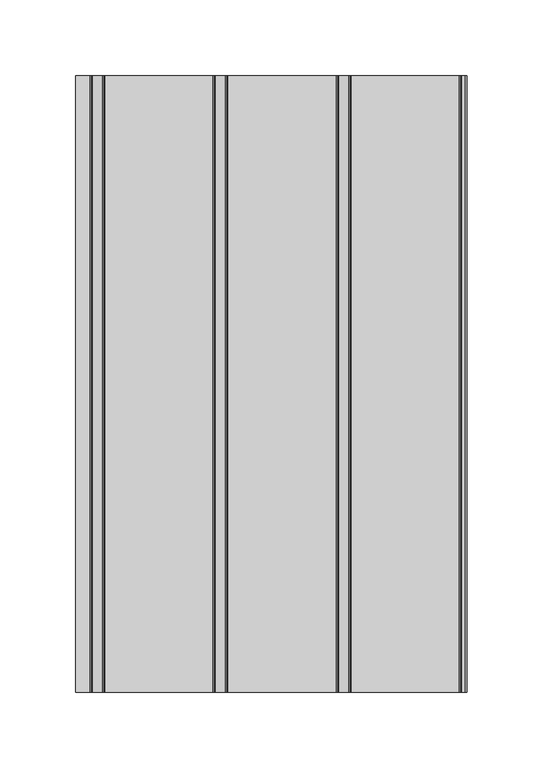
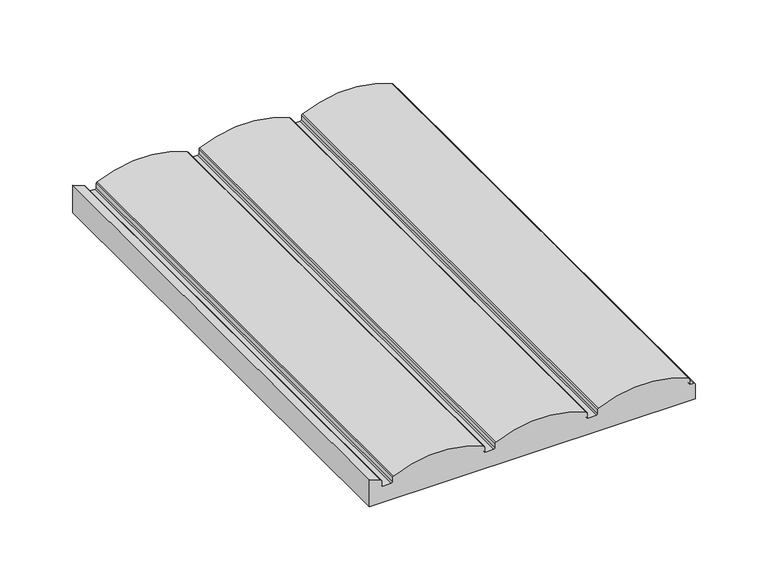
"""IFC4 building model written with IfcOpenShell, lengths in millimetres: proxy geometry, Spinneybeck_Porto 1 : Porto 1."""

import ifcopenshell
import ifcopenshell.guid

model = None  # the IFC model being written
_history = None  # IfcOwnerHistory: only IFC2X3 demands one
_inside = {}  # id of a spatial element -> (the spatial element, [elements in it])
_under = {}  # id of a project, library or spatial element -> (it, [spatial elements below it])
_declared = {}  # id of a project -> (the project, [libraries it declares])
_typed = {}  # id of a type object -> (the type object, [elements of that type])
_made_of = {}  # id of a material, layer set ... -> (it, [elements and type objects made of it])


def new_model(schema):
    """Start an empty IFC model of exactly this schema.

    Asked for "IFC4X3", IfcOpenShell would pick the latest addendum, in which some entities
    have other attributes; the version numbers below select the first issue.
    IFC2X3 requires an IfcOwnerHistory on every rooted entity: one is made here for all.
    """
    global model, _history
    if schema == "IFC4X3":
        model = ifcopenshell.file(schema_version=(4, 3, 0, 0))
    else:
        model = ifcopenshell.file(schema=schema)
    _inside.clear()
    _under.clear()
    _declared.clear()
    _typed.clear()
    _made_of.clear()
    _history = None
    if model.schema == "IFC2X3":
        org = make("IfcOrganization", Name="unknown")
        user = make(
            "IfcPersonAndOrganization",
            ThePerson=make("IfcPerson", FamilyName="unknown"),
            TheOrganization=org,
        )
        app = make(
            "IfcApplication",
            ApplicationDeveloper=org,
            Version="unknown",
            ApplicationFullName="unknown",
            ApplicationIdentifier="unknown",
        )
        _history = make(
            "IfcOwnerHistory",
            OwningUser=user,
            OwningApplication=app,
            ChangeAction="ADDED",
            CreationDate=0,
        )
    return model


def make(cls, **values):
    """One entity of the class cls with the attributes given. An attribute that is None is left unset."""
    return model.create_entity(
        cls, **{name: value for name, value in values.items() if value is not None}
    )


def rooted(cls, **values):
    """An entity with a GlobalId (a new one), such as an element, a storey or a relation."""
    return make(cls, GlobalId=ifcopenshell.guid.new(), OwnerHistory=_history, **values)


def si_unit(unit_type, name, prefix=None):
    """IfcSIUnit, for example si_unit("LENGTHUNIT", "METRE", prefix="MILLI")."""
    return make("IfcSIUnit", UnitType=unit_type, Prefix=prefix, Name=name)


def assignment(units):
    """IfcUnitAssignment: the units of a project."""
    return None if units is None else make("IfcUnitAssignment", Units=units)


def point(xyz):
    """IfcCartesianPoint."""
    return None if xyz is None else make("IfcCartesianPoint", Coordinates=xyz)


def direction(xyz):
    """IfcDirection."""
    return None if xyz is None else make("IfcDirection", DirectionRatios=xyz)


def frame(location, z_axis=None, x_axis=None):
    """IfcAxis2Placement3D, a coordinate frame: its origin and axes. An axis left out is left unset."""
    return make(
        "IfcAxis2Placement3D",
        Location=point(location),
        Axis=direction(z_axis),
        RefDirection=direction(x_axis),
    )


def frame_2d(location, x_axis=None):
    """IfcAxis2Placement2D, a coordinate frame in the plane: its origin and x axis."""
    return make(
        "IfcAxis2Placement2D", Location=point(location), RefDirection=direction(x_axis)
    )


def origin():
    """The frame at (0, 0, 0) with its axes left unset."""
    return frame((0.0, 0.0, 0.0))


def place(relative_to, where):
    """IfcLocalPlacement: puts the frame where relative to a parent placement (None: the world)."""
    return make(
        "IfcLocalPlacement", PlacementRelTo=relative_to, RelativePlacement=where
    )


def context(
    kind, dimensions, precision=None, world=None, true_north=None, identifier=None
):
    """IfcGeometricRepresentationContext, for example the 3D "Model" context."""
    return make(
        "IfcGeometricRepresentationContext",
        ContextIdentifier=identifier,
        ContextType=kind,
        CoordinateSpaceDimension=dimensions,
        Precision=precision,
        WorldCoordinateSystem=world,
        TrueNorth=true_north,
    )


def project(units=None, contexts=None):
    """IfcProject with its units and contexts."""
    return rooted(
        "IfcProject",
        Name="project",
        RepresentationContexts=contexts,
        UnitsInContext=assignment(units),
    )


def spatial(cls, under=None, at=None, **own):
    """A site, building, storey or space (cls), placed at a placement, below another one or the project."""
    s = rooted(cls, ObjectPlacement=at, **own)
    if under is not None:
        _under.setdefault(under.id(), (under, []))[1].append(s)
    return s


def polyline(points):
    """IfcPolyline through the points."""
    return make("IfcPolyline", Points=[point(p) for p in points])


def circle_curve(where, radius):
    """IfcCircle in the frame where."""
    return make("IfcCircle", Position=where, Radius=radius)


def trimmed(basis, trim1, trim2, sense, master):
    """IfcTrimmedCurve: the piece of a basis curve between two trims."""
    return make(
        "IfcTrimmedCurve",
        BasisCurve=basis,
        Trim1=trim1,
        Trim2=trim2,
        SenseAgreement=sense,
        MasterRepresentation=master,
    )


def segment(curve, same_sense, transition):
    """IfcCompositeCurveSegment."""
    return make(
        "IfcCompositeCurveSegment",
        Transition=transition,
        SameSense=same_sense,
        ParentCurve=curve,
    )


def composite_curve(segments, self_intersect=None):
    """IfcCompositeCurve: segments joined end to end."""
    return make("IfcCompositeCurve", Segments=segments, SelfIntersect=self_intersect)


def outline(outer, holes=None, kind="AREA"):
    """IfcArbitraryClosedProfileDef: a profile drawn as a closed curve; with holes, ...WithVoids."""
    if holes is None:
        return make("IfcArbitraryClosedProfileDef", ProfileType=kind, OuterCurve=outer)
    return make(
        "IfcArbitraryProfileDefWithVoids",
        ProfileType=kind,
        OuterCurve=outer,
        InnerCurves=holes,
    )


def extrude(swept, where, along, depth):
    """IfcExtrudedAreaSolid: the profile swept, set in the frame where, extruded along a direction by depth."""
    return make(
        "IfcExtrudedAreaSolid",
        SweptArea=swept,
        Position=where,
        ExtrudedDirection=direction(along),
        Depth=depth,
    )


def shape(context_of_items, identifier, shape_type, items):
    """IfcShapeRepresentation: the items that make up one representation, for example the "Body"."""
    return make(
        "IfcShapeRepresentation",
        ContextOfItems=context_of_items,
        RepresentationIdentifier=identifier,
        RepresentationType=shape_type,
        Items=items,
    )


def source(mapping_origin, context_of_items, identifier, shape_type, items):
    """IfcRepresentationMap: a shape defined once, which mapped items show again and again."""
    return make(
        "IfcRepresentationMap",
        MappingOrigin=mapping_origin,
        MappedRepresentation=shape(context_of_items, identifier, shape_type, items),
    )


def transform(
    local_origin,
    x_axis=None,
    y_axis=None,
    z_axis=None,
    scale=None,
    scale2=None,
    scale3=None,
    uniform=True,
):
    """IfcCartesianTransformationOperator3D, or its non-uniform kind. x_axis, y_axis, z_axis: its Axis1, 2, 3."""
    if uniform:
        return make(
            "IfcCartesianTransformationOperator3D",
            Axis1=direction(x_axis),
            Axis2=direction(y_axis),
            LocalOrigin=point(local_origin),
            Scale=scale,
            Axis3=direction(z_axis),
        )
    return make(
        "IfcCartesianTransformationOperator3DnonUniform",
        Axis1=direction(x_axis),
        Axis2=direction(y_axis),
        LocalOrigin=point(local_origin),
        Scale=scale,
        Axis3=direction(z_axis),
        Scale2=scale2,
        Scale3=scale3,
    )


def mapped(mapping_source, mapping_target):
    """IfcMappedItem: shows the shape of a source again, moved by a transform."""
    return make(
        "IfcMappedItem", MappingSource=mapping_source, MappingTarget=mapping_target
    )


def made_of(thing, what):
    """Note that an element or type object is made of a material, layer set ...; save() writes the relation."""
    if what is not None:
        _made_of.setdefault(what.id(), (what, []))[1].append(thing)
    return thing


def element(
    cls,
    number,
    at=None,
    inside=None,
    cuts=None,
    type_object=None,
    material=None,
    context=None,
    identifier="Body",
    shape_type=None,
    held_by="IfcProductDefinitionShape",
    body=None,
    shapes=None,
    **own,
):
    """One element of the class cls, such as IfcWall. Its Tag is "e" and its number.

    at: its placement. inside: the storey or other place that contains it. cuts: it is an
    opening in that element (IfcRelVoidsElement). A single representation is given by context,
    identifier, shape_type and body (its items); several are given by shapes. held_by: the class
    of the entity that holds the representations. save() writes the other relations.
    """
    e = rooted(cls, Tag="e%d" % number, ObjectPlacement=at, **own)
    if body is not None:
        shapes = [shape(context, identifier, shape_type, body)]
    if shapes is not None:
        e.Representation = make(held_by, Representations=shapes)
    if inside is not None:
        _inside.setdefault(inside.id(), (inside, []))[1].append(e)
    if cuts is not None:
        rooted(
            "IfcRelVoidsElement", RelatingBuildingElement=cuts, RelatedOpeningElement=e
        )
    if type_object is not None:
        _typed.setdefault(type_object.id(), (type_object, []))[1].append(e)
    return made_of(e, material)


def aggregate(whole, parts):
    """IfcRelAggregates: a whole, such as a stair, and the parts it consists of."""
    return rooted("IfcRelAggregates", RelatingObject=whole, RelatedObjects=parts)


def save(model, path):
    """Write the relations noted so far, then the file.

    IfcRelAggregates (storeys below a building ...), IfcRelContainedInSpatialStructure (elements
    in a storey), IfcRelDefinesByType, IfcRelAssociatesMaterial and IfcRelDeclares: one each for
    every whole, place, type object, material and project.
    """
    for whole, parts in _under.values():
        aggregate(whole, parts)
    for where, things in _inside.values():
        rooted(
            "IfcRelContainedInSpatialStructure",
            RelatedElements=things,
            RelatingStructure=where,
        )
    for kind, things in _typed.values():
        rooted("IfcRelDefinesByType", RelatedObjects=things, RelatingType=kind)
    for what, things in _made_of.values():
        rooted("IfcRelAssociatesMaterial", RelatedObjects=things, RelatingMaterial=what)
    for by, libraries in _declared.values():
        rooted("IfcRelDeclares", RelatingContext=by, RelatedDefinitions=libraries)
    model.write(path)


def specialty_equipment_1fc71473(model_context):
    return source(origin(), model_context, "Body", "SweptSolid", [
        extrude(outline(composite_curve([segment(polyline([(0.0, -55.0128011), (0.0, 203.2), (12.5078125, 203.2)]), True, "CONTINUOUS"), segment(trimmed(circle_curve(frame_2d((12.5078125, 202.2078125)), 0.9921875), [point((12.5078125, 203.2))], [point((13.5, 202.2078125))], False, "CARTESIAN"), True, "CONTINUOUS"), segment(polyline([(13.5, 202.2078125), (13.5, 199.9465867)]), True, "CONTINUOUS"), segment(trimmed(circle_curve(frame_2d((14.4921875, 199.9465867)), 0.9921875), [point((13.5, 199.9465867))], [point((14.4921875, 198.9543992))], True, "CARTESIAN"), True, "CONTINUOUS"), segment(polyline([(14.4921875, 198.9543992), (17.9268461, 198.9543992)]), True, "CONTINUOUS"), segment(trimmed(circle_curve(frame_2d((17.9268461, 197.6645554)), 1.2898438), [point((17.9268461, 198.9543992))], [point((19.0971842, 198.2067783))], False, "CARTESIAN"), True, "CONTINUOUS"), segment(trimmed(circle_curve(frame_2d((-57.8431012, 162.56)), 84.7968178), [point((19.0971842, 198.2067783))], [point((19.0971842, 126.9132217))], False, "CARTESIAN"), True, "CONTINUOUS"), segment(trimmed(circle_curve(frame_2d((17.9268461, 127.4554446)), 1.2898437), [point((19.0971842, 126.9132217))], [point((17.9268461, 126.1656008))], False, "CARTESIAN"), True, "CONTINUOUS"), segment(polyline([(17.9268461, 126.1656008), (14.4921875, 126.1656008)]), True, "CONTINUOUS"), segment(trimmed(circle_curve(frame_2d((14.4921875, 125.1734133)), 0.9921875), [point((14.4921875, 126.1656008))], [point((13.5, 125.1734133))], True, "CARTESIAN"), True, "CONTINUOUS"), segment(polyline([(13.5, 125.1734133), (13.5, 118.6665867)]), True, "CONTINUOUS"), segment(trimmed(circle_curve(frame_2d((14.4921875, 118.6665867)), 0.9921875), [point((13.5, 118.6665867))], [point((14.4921875, 117.6743992))], True, "CARTESIAN"), True, "CONTINUOUS"), segment(polyline([(14.4921875, 117.6743992), (17.9268461, 117.6743992)]), True, "CONTINUOUS"), segment(trimmed(circle_curve(frame_2d((17.9268461, 116.3845554)), 1.2898437), [point((17.9268461, 117.6743992))], [point((19.0971842, 116.9267783))], False, "CARTESIAN"), True, "CONTINUOUS"), segment(trimmed(circle_curve(frame_2d((-57.8431012, 81.28)), 84.7968178), [point((19.0971842, 116.9267783))], [point((19.0971842, 45.6332217))], False, "CARTESIAN"), True, "CONTINUOUS"), segment(trimmed(circle_curve(frame_2d((17.9268461, 46.1754446)), 1.2898437), [point((19.0971842, 45.6332217))], [point((17.9268461, 44.8856008))], False, "CARTESIAN"), True, "CONTINUOUS"), segment(polyline([(17.9268461, 44.8856008), (14.4921875, 44.8856008)]), True, "CONTINUOUS"), segment(trimmed(circle_curve(frame_2d((14.4921875, 43.8934133)), 0.9921875), [point((14.4921875, 44.8856008))], [point((13.5, 43.8934133))], True, "CARTESIAN"), True, "CONTINUOUS"), segment(polyline([(13.5, 43.8934133), (13.5, 37.3865867)]), True, "CONTINUOUS"), segment(trimmed(circle_curve(frame_2d((14.4921875, 37.3865867)), 0.9921875), [point((13.5, 37.3865867))], [point((14.4921875, 36.3943992))], True, "CARTESIAN"), True, "CONTINUOUS"), segment(polyline([(14.4921875, 36.3943992), (17.9268461, 36.3943992)]), True, "CONTINUOUS"), segment(trimmed(circle_curve(frame_2d((17.9268461, 35.1045554)), 1.2898437), [point((17.9268461, 36.3943992))], [point((19.0971842, 35.6467783))], False, "CARTESIAN"), True, "CONTINUOUS"), segment(trimmed(circle_curve(frame_2d((-57.8431012, 0.0)), 84.7968178), [point((19.0971842, 35.6467783))], [point((19.0971842, -35.6467783))], False, "CARTESIAN"), True, "CONTINUOUS"), segment(trimmed(circle_curve(frame_2d((17.9268461, -35.1045554)), 1.2898437), [point((19.0971842, -35.6467783))], [point((17.9268461, -36.3943992))], False, "CARTESIAN"), True, "CONTINUOUS"), segment(polyline([(17.9268461, -36.3943992), (14.4921875, -36.3943992)]), True, "CONTINUOUS"), segment(trimmed(circle_curve(frame_2d((14.4921875, -37.3865867)), 0.9921875), [point((14.4921875, -36.3943992))], [point((13.5, -37.3865867))], True, "CARTESIAN"), True, "CONTINUOUS"), segment(polyline([(13.5, -37.3865867), (13.5, -43.8934133)]), True, "CONTINUOUS"), segment(trimmed(circle_curve(frame_2d((14.4921875, -43.8934133)), 0.9921875), [point((13.5, -43.8934133))], [point((14.4921875, -44.8856008))], True, "CARTESIAN"), True, "CONTINUOUS"), segment(polyline([(14.4921875, -44.8856008), (17.9268461, -44.8856008)]), True, "CONTINUOUS"), segment(trimmed(circle_curve(frame_2d((17.9268461, -46.1754446)), 1.2898438), [point((17.9268461, -44.8856008))], [point((19.0971842, -45.6332217))], False, "CARTESIAN"), True, "CONTINUOUS"), segment(trimmed(circle_curve(frame_2d((-57.8431012, -81.28)), 84.7968178), [point((19.0971842, -45.6332217))], [point((22.7827916, -55.0128011))], False, "CARTESIAN"), True, "CONTINUOUS"), segment(polyline([(22.7827916, -55.0128011), (0.0, -55.0128011)]), True, "CONTINUOUS")], self_intersect=False)), frame((0.0, -203.2, 0.0), z_axis=(0.0, 1.0, 0.0), x_axis=(0.0, 0.0, 1.0)), (0.0, 0.0, 1.0), 406.4),
    ])


if __name__ == "__main__":
    model = new_model("IFC4")
    model_context = context("Model", 3, world=origin())
    ifc_project = project(units=[si_unit("LENGTHUNIT", "METRE", prefix="MILLI")], contexts=[model_context])
    site = spatial("IfcSite", under=ifc_project)
    building = spatial("IfcBuilding", under=site)
    placement = place(None, origin())
    specialty_equipment_shape = specialty_equipment_1fc71473(model_context)
    element("IfcBuildingElementProxy", 1, Name="Spinneybeck_Porto 1 : Porto 1", ObjectType="Spinneybeck_Porto 1 : Porto 1", at=placement, inside=building, context=model_context, shape_type="MappedRepresentation", body=[
        mapped(specialty_equipment_shape, transform((0.0, 0.0, 0.0), x_axis=(1.0, 0.0, 0.0), y_axis=(0.0, 1.0, 0.0), z_axis=(0.0, 0.0, 1.0))),
    ])
    save(model, "model.ifc")
